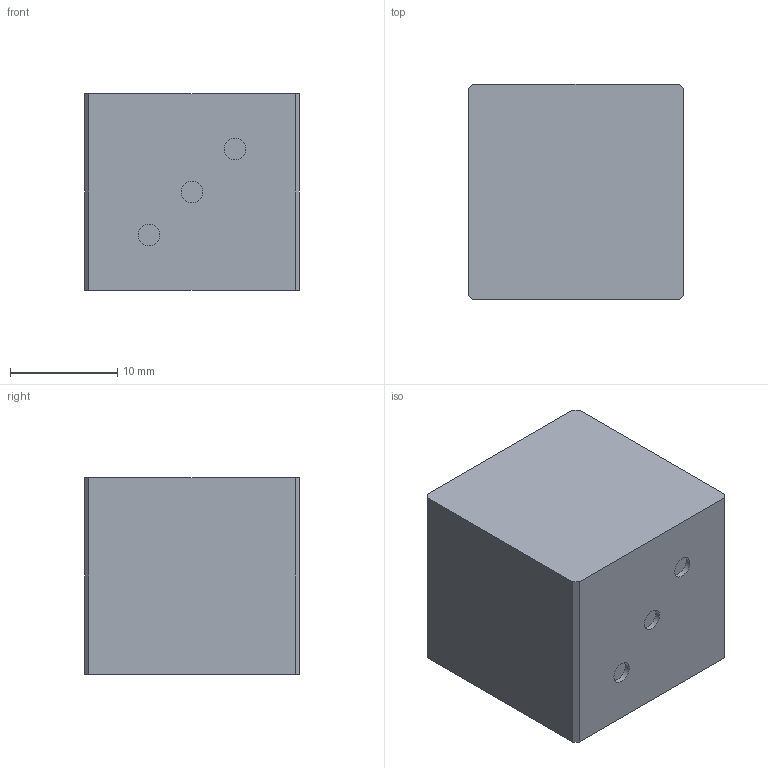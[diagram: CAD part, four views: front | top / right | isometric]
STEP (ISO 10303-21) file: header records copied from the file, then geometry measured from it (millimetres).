
FILE_DESCRIPTION(('Open CASCADE Model'),'2;1');
FILE_NAME('Open CASCADE Shape Model','2026-08-23T08:04:37',('Author'),( 'Open CASCADE'),'Open CASCADE STEP processor 7.9','Open CASCADE 7.9' ,'Unknown');
FILE_SCHEMA(('AUTOMOTIVE_DESIGN { 1 0 10303 214 1 1 1 1 }'));
Length unit declared in the file: millimetre
Products named in the file (2): =>[0:1:1:2]; COMPOUND
Assembly tree (1 placements, depth 2):
  =>[0:1:1:2]
    COMPOUND
Bounding box: 20 x 20 x 18.25 mm (x, y, z)
Volume: 7289.4 mm3; surface area: 2251.7 mm2
Topology: 1 solids, 1 shells, 16 faces, 33 edges, 22 vertices
Faces by surface type: plane 13, cylinder 3
Full cylindrical faces by diameter (mm): 2 x3
Entity records: 905 total; most frequent: CARTESIAN_POINT 157, DIRECTION 138, LINE 87, VECTOR 87, ORIENTED_EDGE 66, PCURVE 66, DEFINITIONAL_REPRESENTATION 66, EDGE_CURVE 33
